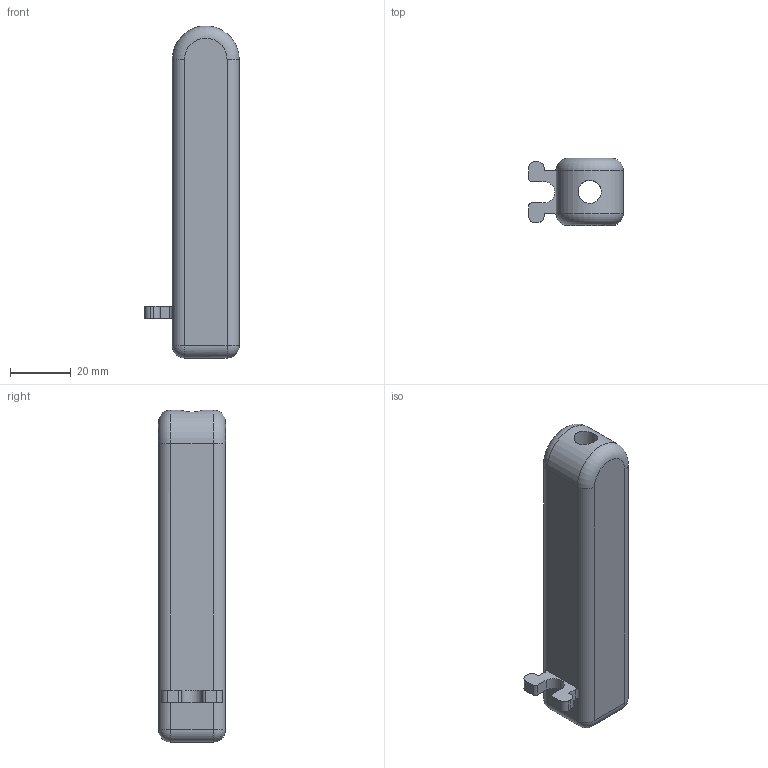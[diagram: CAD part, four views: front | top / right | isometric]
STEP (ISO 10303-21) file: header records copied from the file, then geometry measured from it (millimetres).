
FILE_DESCRIPTION(/* description */ (''),/* implementation_level */ '2;1');
FILE_NAME(/* name */ 'C:/Users/Owner/Desktop/K-CAD Songbird PM4 Centerfire/STEP/Barrels/Barrel Type 3/Barrel Type 3 0.3 inch ID.step',/* time_stamp */ '2020-12-05T21:32:18-05:00',/* author */ (''),/* organization */ (''),/* preprocessor_version */ 'ST-DEVELOPER v18.1',/* originating_system */ 'Autodesk Translation Framework v9.3.0.1241',/* authorisation */ '');
FILE_SCHEMA (('AUTOMOTIVE_DESIGN { 1 0 10303 214 3 1 1 }'));
Length unit declared in the file: inch
Products named in the file (1): Barrel Type 3 0.3 inch ID
Bounding box: 31 x 22 x 109 mm (x, y, z)
Volume: 45220.1 mm3; surface area: 12151.4 mm2
Topology: 1 solids, 1 shells, 43 faces, 110 edges, 68 vertices
Faces by surface type: cylinder 19, plane 18, sphere 4, torus 2
Full cylindrical faces by diameter (mm): 7.62 x1
Entity records: 1373 total; most frequent: CARTESIAN_POINT 254, DIRECTION 241, ORIENTED_EDGE 218, EDGE_CURVE 109, AXIS2_PLACEMENT_3D 89, VERTEX_POINT 68, LINE 63, VECTOR 63
